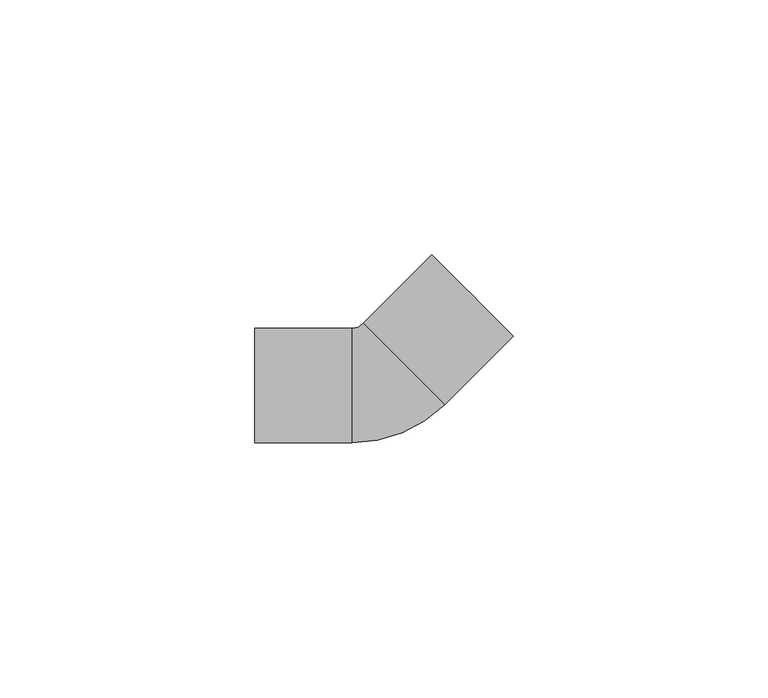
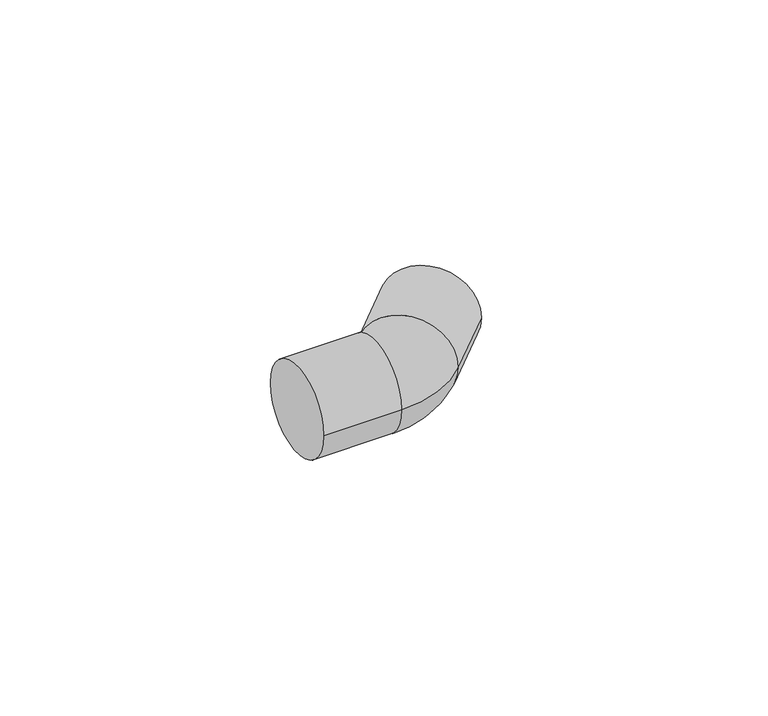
"""IFC4 building model written with IfcOpenShell, lengths in millimetres: pipe fitting geometry, 01051067 : Joelho a 45º."""

from ifc_helpers import new_model, si_unit, point, frame, origin, place, context, project, spatial, circle_curve, ellipse_curve, trimmed, source, transform, mapped, element, save
from ifc_brep_helpers import plane_surface, cylinder_surface, revolved_surface, advanced_brep


def pipe_fitting_f0df0a35(model_context):
    return source(origin(), model_context, "Body", "AdvancedBrep", [
        advanced_brep(
        [(-25.0, -11.25, 0.0), (-25.0, 11.25, 0.0), (-6.0, -11.25, 0.0), (-6.0, 11.25, 0.0), (-3.7123106, 12.197592, 0.0), (12.197592, -3.7123106, 0.0), (25.6326208, 9.7227182, 0.0), (9.7227182, 25.6326208, 0.0)],
        [
            (0, 1, circle_curve(frame((-25.0, 0.0, 0.0), z_axis=(-1.0, 0.0, 0.0), x_axis=(0.0, 1.0, 0.0)), 11.25)),
            (1, 0, circle_curve(frame((-25.0, 0.0, 0.0), z_axis=(-1.0, 0.0, 0.0), x_axis=(0.0, 1.0, 0.0)), 11.25)),
            (0, 2),
            (2, 3, circle_curve(frame((-6.0, 0.0, 0.0), z_axis=(-1.0, 0.0, 0.0), x_axis=(0.0, 1.0, 0.0)), 11.25)),
            (3, 1),
            (3, 2, circle_curve(frame((-6.0, 0.0, 0.0), z_axis=(-1.0, 0.0, 0.0), x_axis=(0.0, 1.0, 0.0)), 11.25)),
            (4, 3, circle_curve(frame((-6.0, 14.4852814, 0.0), z_axis=(0.0, 0.0, -1.0), x_axis=(0.0, -1.0, 0.0)), 3.2352814)),
            (2, 5, circle_curve(frame((-6.0, 14.4852814, 0.0), z_axis=(0.0, 0.0, 1.0), x_axis=(0.0, -1.0, 0.0)), 25.7352814)),
            (5, 4, circle_curve(frame((4.2426407, 4.2426407, 0.0), z_axis=(-0.7071067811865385, -0.7071067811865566, 0.0), x_axis=(-0.7071067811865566, 0.7071067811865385, 0.0)), 11.25)),
            (4, 5, circle_curve(frame((4.2426407, 4.2426407, 0.0), z_axis=(-0.7071067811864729, -0.7071067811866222, 0.0), x_axis=(-0.7071067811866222, 0.7071067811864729, 0.0)), 11.25)),
            (6, 7, circle_curve(frame((17.6776695, 17.6776695, 0.0), z_axis=(0.7071067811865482, 0.7071067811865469, 0.0), x_axis=(-0.7071067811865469, 0.7071067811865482, 0.0)), 11.25)),
            (7, 6, circle_curve(frame((17.6776695, 17.6776695, 0.0), z_axis=(0.7071067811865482, 0.7071067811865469, 0.0), x_axis=(-0.7071067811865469, 0.7071067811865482, 0.0)), 11.25)),
            (5, 6),
            (7, 4),
        ],
        [
            plane_surface(frame((-25.0, 0.0, 0.0), z_axis=(-1.0, 0.0, 0.0), x_axis=(0.0, 0.0, 1.0))),
            cylinder_surface(frame((-25.0, 0.0, 0.0), z_axis=(-1.0, 0.0, 0.0), x_axis=(0.0, 1.0, 0.0)), 11.25),
            revolved_surface(trimmed(ellipse_curve(frame((-6.0, 0.0, 0.0), z_axis=(-1.0, 0.0, 0.0), x_axis=(0.0, 1.0, 0.0)), 11.25, 11.25), [point((-6.0, -11.25, 0.0))], [point((-6.0, 11.25, 0.0))], True, "CARTESIAN"), (-6.0, 14.4852814, 0.0), (0.0, 0.0, 1.0)),
            revolved_surface(trimmed(ellipse_curve(frame((-6.0, 0.0, 0.0), z_axis=(-1.0, 0.0, 0.0), x_axis=(0.0, 1.0, 0.0)), 11.25, 11.25), [point((-6.0, 11.25, 0.0))], [point((-6.0, -11.25, 0.0))], True, "CARTESIAN"), (-6.0, 14.4852814, 0.0), (0.0, 0.0, 1.0)),
            plane_surface(frame((17.6776695, 17.6776695, 0.0), z_axis=(0.7071067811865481, 0.7071067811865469, 0.0), x_axis=(0.0, 0.0, 1.0))),
            cylinder_surface(frame((4.2426407, 4.2426407, 0.0), z_axis=(-0.7071067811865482, -0.7071067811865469, 0.0), x_axis=(-0.7071067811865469, 0.7071067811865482, 0.0)), 11.25),
        ],
        [
            (0, [[1, 2]]),
            (1, [[-1, 3, 4, 5]]),
            (1, [[-2, -5, 6, -3]]),
            (2, [[7, -4, 8, 9]]),
            (3, [[-8, -6, -7, 10]]),
            (4, [[11, 12]]),
            (5, [[-9, 13, -12, 14]]),
            (5, [[-10, -14, -11, -13]]),
        ],
    ),
    ])


if __name__ == "__main__":
    model = new_model("IFC4")
    model_context = context("Model", 3, world=origin())
    ifc_project = project(units=[si_unit("LENGTHUNIT", "METRE", prefix="MILLI")], contexts=[model_context])
    site = spatial("IfcSite", under=ifc_project)
    building = spatial("IfcBuilding", under=site)
    placement = place(None, origin())
    pipe_fitting_shape = pipe_fitting_f0df0a35(model_context)
    element("IfcPipeFitting", 1, ObjectType="01051067 : Joelho a 45º", at=placement, inside=building, context=model_context, shape_type="MappedRepresentation", body=[
        mapped(pipe_fitting_shape, transform((0.0, 0.0, 0.0), x_axis=(1.0, 0.0, 0.0), y_axis=(0.0, 1.0, 0.0), z_axis=(0.0, 0.0, 1.0))),
    ])
    save(model, "model.ifc")
